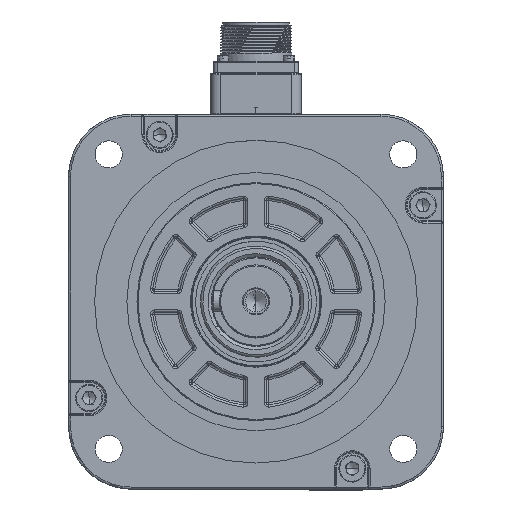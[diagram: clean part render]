
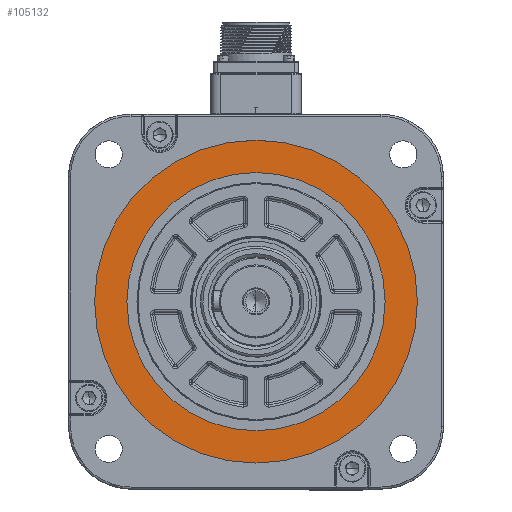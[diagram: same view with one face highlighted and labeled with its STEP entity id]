
A CAD part, top view. The second image highlights one B-rep face of the part: STEP entity #105132.
In plain terms, the highlighted planar face has unit normal (0, 0, 1) as drawn and (0, 0, -1) by its records, which use the part's own axes.
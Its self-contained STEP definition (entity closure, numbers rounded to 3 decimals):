
#8466 = EDGE_CURVE ( 'NONE', #14363, #20924, #17650, .T. ) ;
#14363 = VERTEX_POINT ( 'NONE', #107371 ) ;
#15032 = EDGE_CURVE ( 'NONE', #20924, #14363, #99757, .T. ) ;
#17650 = CIRCLE ( 'NONE', #102337, 62. ) ;
#20924 = VERTEX_POINT ( 'NONE', #102489 ) ;
#26597 = AXIS2_PLACEMENT_3D ( 'NONE', #83481, #55374, #106617 ) ;
#28092 = AXIS2_PLACEMENT_3D ( 'NONE', #109350, #82862, #107084 ) ;
#28243 = DIRECTION ( 'NONE',  ( -1., 0., 0. ) ) ;
#28496 = EDGE_LOOP ( 'NONE', ( #29860, #32055 ) ) ;
#29860 = ORIENTED_EDGE ( 'NONE', *, *, #8466, .T. ) ;
#32055 = ORIENTED_EDGE ( 'NONE', *, *, #15032, .T. ) ;
#42141 = PLANE ( 'NONE',  #57583 ) ;
#47194 = VERTEX_POINT ( 'NONE', #76061 ) ;
#50644 = FACE_OUTER_BOUND ( 'NONE', #50889, .T. ) ;
#50889 = EDGE_LOOP ( 'NONE', ( #60278, #91822 ) ) ;
#55374 = DIRECTION ( 'NONE',  ( 0., 0., -1. ) ) ;
#57034 = DIRECTION ( 'NONE',  ( -1., 0., 0. ) ) ;
#57583 = AXIS2_PLACEMENT_3D ( 'NONE', #66414, #75975, #83322 ) ;
#60278 = ORIENTED_EDGE ( 'NONE', *, *, #109983, .T. ) ;
#63808 = CARTESIAN_POINT ( 'NONE',  ( 0., 0., 1.5 ) ) ;
#66414 = CARTESIAN_POINT ( 'NONE',  ( 0., 0., 1.5 ) ) ;
#75975 = DIRECTION ( 'NONE',  ( 0., 0., -1. ) ) ;
#76061 = CARTESIAN_POINT ( 'NONE',  ( -77.5, 0., 1.5 ) ) ;
#78743 = CARTESIAN_POINT ( 'NONE',  ( 77.5, 0., 1.5 ) ) ;
#82376 = DIRECTION ( 'NONE',  ( 0., 0., 1. ) ) ;
#82862 = DIRECTION ( 'NONE',  ( 0., 0., -1. ) ) ;
#83322 = DIRECTION ( 'NONE',  ( -1., 0., 0. ) ) ;
#83481 = CARTESIAN_POINT ( 'NONE',  ( 0., 0., 1.5 ) ) ;
#86931 = DIRECTION ( 'NONE',  ( 0., 0., 1. ) ) ;
#87508 = CIRCLE ( 'NONE', #28092, 77.5 ) ;
#88962 = AXIS2_PLACEMENT_3D ( 'NONE', #63808, #82376, #57034 ) ;
#91822 = ORIENTED_EDGE ( 'NONE', *, *, #108318, .T. ) ;
#99757 = CIRCLE ( 'NONE', #88962, 62. ) ;
#100264 = VERTEX_POINT ( 'NONE', #78743 ) ;
#101395 = FACE_BOUND ( 'NONE', #28496, .T. ) ;
#102337 = AXIS2_PLACEMENT_3D ( 'NONE', #105495, #86931, #28243 ) ;
#102489 = CARTESIAN_POINT ( 'NONE',  ( 62., 0., 1.5 ) ) ;
#105132 = ADVANCED_FACE ( 'NONE', ( #101395, #50644 ), #42141, .T. ) ;
#105495 = CARTESIAN_POINT ( 'NONE',  ( 0., 0., 1.5 ) ) ;
#106617 = DIRECTION ( 'NONE',  ( -1., 0., 0. ) ) ;
#107084 = DIRECTION ( 'NONE',  ( -1., 0., 0. ) ) ;
#107371 = CARTESIAN_POINT ( 'NONE',  ( -62., 0., 1.5 ) ) ;
#107592 = CIRCLE ( 'NONE', #26597, 77.5 ) ;
#108318 = EDGE_CURVE ( 'NONE', #100264, #47194, #87508, .T. ) ;
#109350 = CARTESIAN_POINT ( 'NONE',  ( 0., 0., 1.5 ) ) ;
#109983 = EDGE_CURVE ( 'NONE', #47194, #100264, #107592, .T. ) ;
